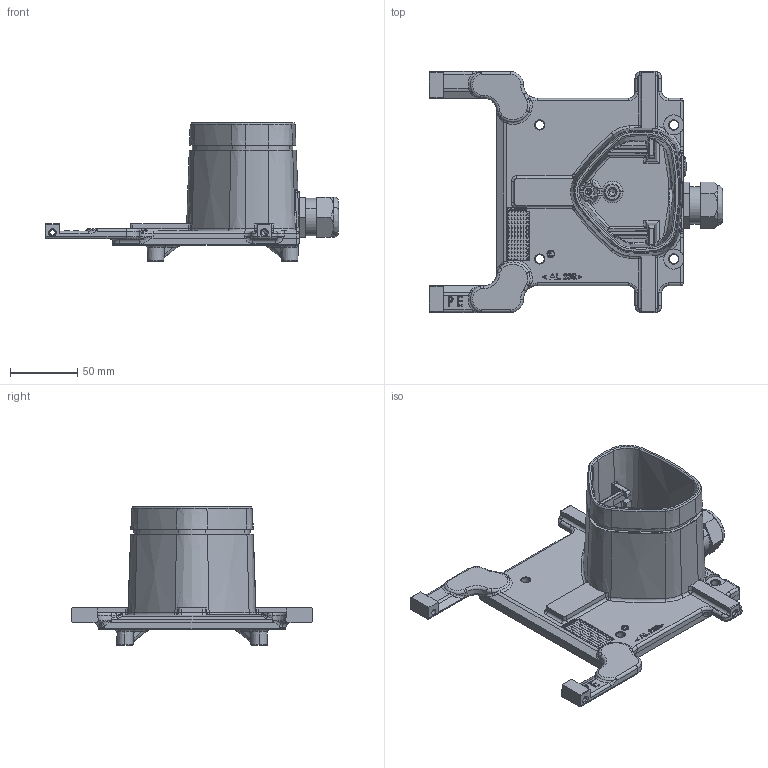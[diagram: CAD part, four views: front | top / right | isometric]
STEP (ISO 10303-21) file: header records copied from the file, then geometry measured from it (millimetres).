
FILE_DESCRIPTION(('CATIA V5 STEP 214'),'2;1');
FILE_NAME('C:\Temp\ddxv6\122143\ADAPTER_MC_WANDMONTAGE.stp','2010-11-19T09:26:38+00:00',('Leopold Kostal'),('Kostal GmbH'),'CATIA Version 5 Release 19 SP 8 (IN-10)','CATIA V5 STEP AP214','none');
FILE_SCHEMA(('AUTOMOTIVE_DESIGN { 1 0 10303 214 1 1 1 1 }'));
Length unit declared in the file: millimetre
Products named in the file (1): 10014978-1-0002A_AllCATPart
Bounding box: 218.88 x 179.89 x 103.5 mm (x, y, z)
Volume: 404931.4 mm3; surface area: 125044.2 mm2
Topology: 29 solids, 29 shells, 2254 faces, 6086 edges, 3901 vertices
Faces by surface type: plane 969, extrusion 587, cylinder 270, torus 150, bspline 145, cone 109, sphere 20, revolution 4
Entity records: 81896 total; most frequent: CARTESIAN_POINT 32307, ORIENTED_EDGE 12088, DIRECTION 6549, EDGE_CURVE 6044, VERTEX_POINT 3901, VECTOR 3793, LINE 3206, EDGE_LOOP 2527
